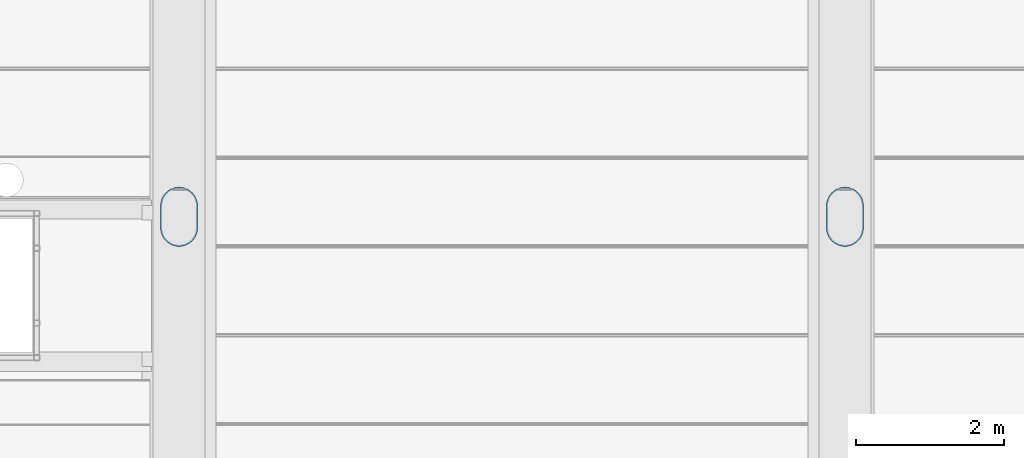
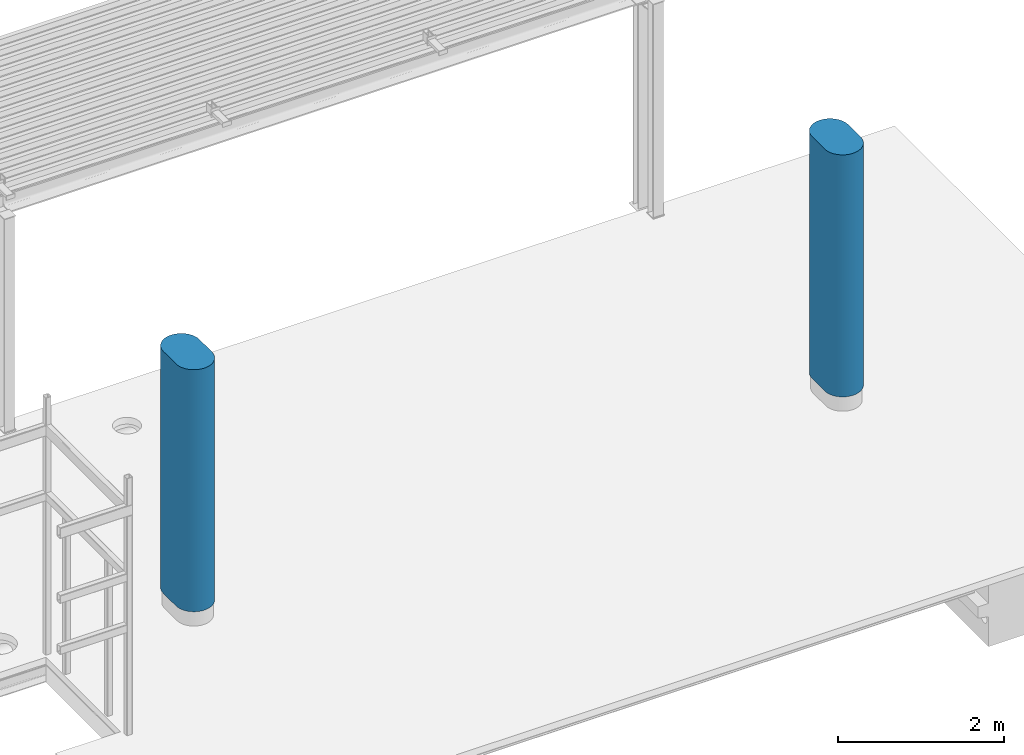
# One storey, part 17 of 34: 2 columns.
"""IFC2X3 building model written with IfcOpenShell, lengths in millimetres."""

from ifc_helpers import new_model, entity, si_unit, converted_unit, derived_unit, direction, frame, origin_with_axes, place, context, subcontext, project, spatial, faceted_brep, type_object, element, save


model = new_model("IFC2X3")

# Units and contexts
model_context = context("Model", 3, precision=0.01, world=frame((0.0, 4.29681676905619e-09, 0.0)), true_north=direction((4.01073788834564e-13, 1.0)))
plan_context = context("Plan", 3, precision=0.01, world=frame((0.0, 4.29681676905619e-09, 0.0)), true_north=direction((4.01073788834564e-13, 1.0)))
body_context = subcontext(model_context, "Body", "Model", "MODEL_VIEW")
ifc_project = project(units=[converted_unit("PLANEANGLEUNIT", "DEGREE", entity("IfcPositiveLengthMeasure", 0.0174532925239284), si_unit("PLANEANGLEUNIT", "RADIAN"), dimensions=[0, 0, 0, 0, 0, 0, 0]), si_unit("AREAUNIT", "SQUARE_METRE"), si_unit("LENGTHUNIT", "METRE", prefix="MILLI"), si_unit("MASSUNIT", "GRAM", prefix="KILO"), si_unit("POWERUNIT", "WATT"), si_unit("PRESSUREUNIT", "PASCAL"), si_unit("FORCEUNIT", "NEWTON", prefix="KILO"), si_unit("ELECTRICVOLTAGEUNIT", "VOLT"), si_unit("ELECTRICCURRENTUNIT", "AMPERE"), si_unit("THERMODYNAMICTEMPERATUREUNIT", "DEGREE_CELSIUS"), si_unit("TIMEUNIT", "SECOND"), si_unit("VOLUMEUNIT", "CUBIC_METRE"), derived_unit("LINEARVELOCITYUNIT", [(si_unit("LENGTHUNIT", "METRE"), 1), (si_unit("TIMEUNIT", "SECOND"), -1)]), derived_unit("VOLUMETRICFLOWRATEUNIT", [(si_unit("VOLUMEUNIT", "CUBIC_METRE"), 1), (si_unit("TIMEUNIT", "SECOND"), -1)]), derived_unit("THERMALTRANSMITTANCEUNIT", [(si_unit("POWERUNIT", "WATT"), 1), (si_unit("THERMODYNAMICTEMPERATUREUNIT", "KELVIN"), -1), (si_unit("AREAUNIT", "SQUARE_METRE"), -1)]), derived_unit("SOUNDPRESSUREUNIT", [(si_unit("PRESSUREUNIT", "PASCAL"), 1)])], contexts=[model_context, plan_context])

# Site, building, storey
site_placement = place(None, frame((0.0, -4.29681676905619e-09, 0.0), z_axis=(0.0, 0.0, 1.0), x_axis=(1.0, 0.0, 0.0)))
site = spatial("IfcSite", under=ifc_project, at=site_placement, Name="Gardermoen", CompositionType="ELEMENT")
building_placement = place(site_placement, frame((0.0, 4.29681676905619e-09, 0.0), z_axis=(0.0, 0.0, 1.0), x_axis=(1.0, 0.0, 0.0)))
building = spatial("IfcBuilding", under=site, at=building_placement, Name="TH", CompositionType="ELEMENT")
storey_placement = place(building_placement, origin_with_axes())
storey = spatial("IfcBuildingStorey", under=building, at=storey_placement, Name="F", CompositionType="ELEMENT", Elevation=0.0)

# Columns
column_type = type_object("IfcColumnType", Name="AAJOVAL500*800", PredefinedType="NOTDEFINED")
column_1_placement = place(storey_placement, frame((897999.999531, 480299.995625, 210350.0), z_axis=(0.0, 0.0, 1.0), x_axis=(0.0, 1.0, 0.0)))
element("IfcColumn", 1, at=column_1_placement, inside=storey, type_object=column_type, Name="PREFABSØYLE", ObjectType="AAJOVAL500*800", context=body_context, shape_type="Brep", body=[
    faceted_brep([(381.972256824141, 93.2141194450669, 2912.37962716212), (389.041683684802, 73.2056928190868, 2907.33003691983), (394.388809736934, 52.6698174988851, 2903.51066145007), (397.975108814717, 31.7544549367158, 2900.9490194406), (399.77474155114, 10.6103007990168, 2899.50266869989), (399.77474155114, -10.6103007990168, 2899.50266869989), (397.975108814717, -31.7544549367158, 2900.9490194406), (394.388809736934, -52.6698174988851, 2903.51066145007), (389.041683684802, -73.2056928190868, 2907.33003691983), (381.972256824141, -93.2141194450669, 2912.37962716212), (378.999999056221, -99.789496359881, 2914.50266826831), (378.999999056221, 99.789496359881, 2914.50266826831), (373.231464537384, -112.550936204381, 2914.50266819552), (362.882284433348, -131.076820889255, 2914.50266806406), (358.999999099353, -136.82084890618, 2914.50266801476), (358.999999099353, 136.82084890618, 2914.50266801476), (362.882284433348, 131.076820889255, 2914.50266806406), (373.231464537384, 112.550936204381, 2914.50266819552), (358.999982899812, -136.820872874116, 3264.50266394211), (358.999982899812, 136.820872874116, 3264.50266394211), (373.231464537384, 112.550936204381, 3264.50265812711), (362.882284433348, 131.076820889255, 3264.50266235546), (362.882284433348, -131.076820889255, 3264.50266235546), (373.231464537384, -112.550936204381, 3264.50265812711), (378.99998152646, -99.789535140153, 3264.50265577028), (378.99998152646, 99.789535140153, 3264.50265577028), (397.975108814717, 31.7544549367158, 3278.05632690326), (394.388809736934, 52.6698174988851, 3275.49468304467), (389.041683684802, 73.2056928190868, 3271.67530481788), (381.972256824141, 93.2141194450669, 3266.6257109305), (381.972256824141, -93.2141194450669, 3266.6257109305), (389.041683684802, -73.2056928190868, 3271.67530481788), (394.388809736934, -52.6698174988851, 3275.49468304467), (397.975108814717, -31.7544549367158, 3278.05632690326), (399.77474155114, -10.6103007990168, 3279.50266921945), (399.999986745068, 10.6103007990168, 3279.50266921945), (-150.0, -250.0, 3550.0), (150.0, -250.0, 3550.0), (150.0, -250.0, 0.0), (-150.0, -250.0, 0.0), (171.201481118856, -249.099372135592, 3550.0), (171.201481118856, -249.099372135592, 0.0), (192.250205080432, -246.403977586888, 3550.0), (192.250205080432, -246.403977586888, 0.0), (212.994515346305, -241.933236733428, 3550.0), (212.994515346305, -241.933236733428, 0.0), (233.284948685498, -235.719361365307, 3550.0), (233.284948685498, -235.719361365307, 0.0), (252.975312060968, -227.807122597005, 3550.0), (252.975312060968, -227.807122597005, 0.0), (271.923735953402, -218.253528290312, 3550.0), (271.923735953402, -218.253528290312, 0.0), (289.993696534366, -207.127412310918, 3550.0), (289.993696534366, -207.127412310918, 0.0), (307.054999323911, -194.508938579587, 3550.0), (307.054999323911, -194.508938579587, 0.0), (322.984717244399, -180.489023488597, 3550.0), (322.984717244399, -180.489023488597, 0.0), (337.668076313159, -165.168680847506, 3550.0), (337.668076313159, -165.168680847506, 0.0), (350.999282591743, -148.6582940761, 3550.0), (350.999282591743, -148.6582940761, 0.0), (362.882284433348, -131.076820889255, 3550.0), (362.882284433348, -131.076820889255, 0.0), (373.231464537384, -112.550936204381, 3550.0), (381.972256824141, -93.2141194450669, 3550.0), (389.041683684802, -73.2056928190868, 3550.0), (394.388809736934, -52.6698174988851, 3550.0), (397.975108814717, -31.7544549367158, 3550.0), (399.77474155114, -10.6103007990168, 3550.0), (399.976339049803, 10.6103007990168, 3550.0), (397.975108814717, 31.7544549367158, 3549.99638716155), (394.388809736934, 52.6698174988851, 3550.0), (389.041683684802, 73.2056928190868, 3550.0), (381.972256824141, 93.2141194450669, 3550.0), (373.231464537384, 112.550936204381, 3550.00000209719), (362.882284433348, 131.076820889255, 3550.00000376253), (350.999282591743, 148.6582940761, 3550.0), (350.999282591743, 148.6582940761, 0.0), (362.882284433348, 131.076820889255, 0.0), (373.231464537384, 112.550936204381, 0.0), (381.972256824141, 93.2141194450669, 0.0), (389.041683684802, 73.2056928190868, 0.0), (394.388809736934, 52.6698174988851, 0.0), (397.975108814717, 31.7544549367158, 0.0), (399.77474155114, 10.6103007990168, 0.0), (399.77474155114, -10.6103007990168, 0.0), (397.975108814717, -31.7544549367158, 0.0), (394.388809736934, -52.6698174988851, 0.0), (389.041683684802, -73.2056928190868, 0.0), (381.972256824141, -93.2141194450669, 0.0), (373.231464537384, -112.550936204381, 0.0), (337.668076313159, 165.168680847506, 3550.0), (337.668076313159, 165.168680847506, 0.0), (322.984717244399, 180.489023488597, 3550.0), (322.984717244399, 180.489023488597, 0.0), (307.054999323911, 194.508938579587, 3550.0), (307.054999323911, 194.508938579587, 0.0), (289.993696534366, 207.127412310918, 3550.0), (289.993696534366, 207.127412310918, 0.0), (271.923735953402, 218.253528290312, 3550.0), (271.923735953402, 218.253528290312, 0.0), (252.975312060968, 227.807122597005, 3550.0), (252.975312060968, 227.807122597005, 0.0), (233.284948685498, 235.719361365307, 3550.0), (233.284948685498, 235.719361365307, 0.0), (212.994515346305, 241.933236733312, 3550.0), (212.994515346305, 241.933236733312, 0.0), (192.250205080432, 246.403977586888, 3550.0), (192.250205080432, 246.403977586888, 0.0), (171.201481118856, 249.099372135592, 3550.0), (171.201481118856, 249.099372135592, 0.0), (150.0, 250.0, 3550.0), (150.0, 250.0, 0.0), (-150.0, 250.0, 3550.0), (-150.0, 250.0, 0.0), (-171.201481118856, 249.099372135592, 3550.0), (-171.201481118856, 249.099372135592, 0.0), (-192.250205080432, 246.403977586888, 3550.0), (-192.250205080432, 246.403977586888, 0.0), (-212.994515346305, 241.933236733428, 3550.0), (-212.994515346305, 241.933236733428, 0.0), (-233.284948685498, 235.719361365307, 3550.0), (-233.284948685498, 235.719361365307, 0.0), (-252.975312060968, 227.807122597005, 3550.0), (-252.975312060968, 227.807122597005, 0.0), (-271.923735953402, 218.253528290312, 3550.0), (-271.923735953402, 218.253528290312, 0.0), (-289.993696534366, 207.127412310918, 3550.0), (-289.993696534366, 207.127412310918, 0.0), (-307.054999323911, 194.508938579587, 3550.0), (-307.054999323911, 194.508938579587, 0.0), (-322.984717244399, 180.489023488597, 3550.0), (-322.984717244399, 180.489023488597, 0.0), (-337.668076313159, 165.168680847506, 3550.0), (-337.668076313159, 165.168680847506, 0.0), (-350.999282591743, 148.6582940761, 3550.0), (-350.999282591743, 148.6582940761, 0.0), (-362.882284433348, 131.076820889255, 3550.0), (-362.882284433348, 131.076820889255, 0.0), (-373.231464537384, 112.550936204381, 3550.0), (-373.231464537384, 112.550936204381, 0.0), (-381.972256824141, 93.2141194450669, 3550.0), (-381.972256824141, 93.2141194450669, 0.0), (-389.041683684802, 73.2056928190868, 3550.0), (-389.041683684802, 73.2056928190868, 0.0), (-394.388809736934, 52.6698174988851, 3550.0), (-394.388809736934, 52.6698174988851, 0.0), (-397.975108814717, 31.7544549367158, 3550.0), (-397.975108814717, 31.7544549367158, 0.0), (-399.77474155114, 10.6103007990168, 3550.0), (-399.77474155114, 10.6103007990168, 0.0), (-399.77474155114, -10.6103007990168, 3550.0), (-399.77474155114, -10.6103007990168, 0.0), (-397.975108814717, -31.7544549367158, 3550.0), (-397.975108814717, -31.7544549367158, 0.0), (-394.388809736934, -52.6698174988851, 3550.0), (-394.388809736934, -52.6698174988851, 0.0), (-389.041683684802, -73.2056928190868, 3550.0), (-389.041683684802, -73.2056928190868, 0.0), (-381.972256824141, -93.2141194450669, 3550.0), (-381.972256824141, -93.2141194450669, 0.0), (-373.231464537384, -112.550936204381, 3550.0), (-373.231464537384, -112.550936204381, 0.0), (-362.882284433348, -131.076820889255, 3550.0), (-362.882284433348, -131.076820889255, 0.0), (-350.999282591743, -148.6582940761, 3550.0), (-350.999282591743, -148.6582940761, 0.0), (-337.668076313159, -165.168680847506, 3550.0), (-337.668076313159, -165.168680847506, 0.0), (-322.984717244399, -180.489023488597, 3550.0), (-322.984717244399, -180.489023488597, 0.0), (-307.054999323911, -194.508938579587, 3550.0), (-307.054999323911, -194.508938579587, 0.0), (-289.993696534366, -207.127412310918, 3550.0), (-289.993696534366, -207.127412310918, 0.0), (-271.923735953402, -218.253528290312, 3550.0), (-271.923735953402, -218.253528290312, 0.0), (-252.975312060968, -227.807122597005, 3550.0), (-252.975312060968, -227.807122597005, 0.0), (-233.284948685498, -235.719361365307, 3550.0), (-233.284948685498, -235.719361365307, 0.0), (-212.994515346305, -241.933236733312, 3550.0), (-212.994515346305, -241.933236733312, 0.0), (-192.250205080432, -246.403977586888, 3550.0), (-192.250205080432, -246.403977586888, 0.0), (-171.201481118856, -249.099372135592, 3550.0), (-171.201481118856, -249.099372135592, 0.0), (362.882284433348, 131.076820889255, 3550.0), (373.231464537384, 112.550936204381, 3550.0), (397.975108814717, 31.7544549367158, 3550.0)], [[[0, 1, 2, 3, 4, 5, 6, 7, 8, 9, 10, 11]], [[11, 10, 12, 13, 14, 15, 16, 17]], [[15, 14, 18, 19]], [[20, 21, 19, 18, 22, 23, 24, 25]], [[26, 27, 28, 29, 25, 24, 30, 31, 32, 33, 34, 35]], [[36, 37, 38, 39]], [[37, 40, 41, 38]], [[40, 42, 43, 41]], [[42, 44, 45, 43]], [[44, 46, 47, 45]], [[46, 48, 49, 47]], [[48, 50, 51, 49]], [[50, 52, 53, 51]], [[52, 54, 55, 53]], [[54, 56, 57, 55]], [[56, 58, 59, 57]], [[58, 60, 61, 59]], [[60, 62, 22, 18, 14, 13, 63, 61]], [[62, 64, 23, 22]], [[64, 65, 30, 24, 23]], [[65, 66, 31, 30]], [[66, 67, 32, 31]], [[67, 68, 33, 32]], [[68, 69, 34, 33]], [[69, 70, 35, 34]], [[70, 71, 26, 35]], [[71, 72, 27, 26]], [[72, 73, 28, 27]], [[73, 74, 29, 28]], [[74, 75, 20, 25, 29]], [[75, 76, 21, 20]], [[76, 77, 78, 79, 16, 15, 19, 21]], [[17, 16, 79, 80]], [[0, 11, 17, 80, 81]], [[1, 0, 81, 82]], [[2, 1, 82, 83]], [[3, 2, 83, 84]], [[4, 3, 84, 85]], [[5, 4, 85, 86]], [[6, 5, 86, 87]], [[7, 6, 87, 88]], [[8, 7, 88, 89]], [[9, 8, 89, 90]], [[12, 10, 9, 90, 91]], [[77, 92, 93, 78]], [[92, 94, 95, 93]], [[94, 96, 97, 95]], [[96, 98, 99, 97]], [[98, 100, 101, 99]], [[100, 102, 103, 101]], [[102, 104, 105, 103]], [[104, 106, 107, 105]], [[106, 108, 109, 107]], [[108, 110, 111, 109]], [[110, 112, 113, 111]], [[112, 114, 115, 113]], [[114, 116, 117, 115]], [[116, 118, 119, 117]], [[118, 120, 121, 119]], [[120, 122, 123, 121]], [[122, 124, 125, 123]], [[124, 126, 127, 125]], [[126, 128, 129, 127]], [[128, 130, 131, 129]], [[130, 132, 133, 131]], [[132, 134, 135, 133]], [[134, 136, 137, 135]], [[136, 138, 139, 137]], [[138, 140, 141, 139]], [[140, 142, 143, 141]], [[142, 144, 145, 143]], [[144, 146, 147, 145]], [[146, 148, 149, 147]], [[148, 150, 151, 149]], [[150, 152, 153, 151]], [[152, 154, 155, 153]], [[154, 156, 157, 155]], [[156, 158, 159, 157]], [[158, 160, 161, 159]], [[160, 162, 163, 161]], [[162, 164, 165, 163]], [[164, 166, 167, 165]], [[166, 168, 169, 167]], [[168, 170, 171, 169]], [[170, 172, 173, 171]], [[172, 174, 175, 173]], [[174, 176, 177, 175]], [[176, 178, 179, 177]], [[178, 180, 181, 179]], [[180, 182, 183, 181]], [[182, 184, 185, 183]], [[184, 186, 187, 185]], [[13, 12, 91, 63]], [[186, 36, 39, 187]], [[38, 41, 43, 45, 47, 49, 51, 53, 55, 57, 59, 61, 63, 91, 90, 89, 88, 87, 86, 85, 84, 83, 82, 81, 80, 79, 78, 93, 95, 97, 99, 101, 103, 105, 107, 109, 111, 113, 115, 117, 119, 121, 123, 125, 127, 129, 131, 133, 135, 137, 139, 141, 143, 145, 147, 149, 151, 153, 155, 157, 159, 161, 163, 165, 167, 169, 171, 173, 175, 177, 179, 181, 183, 185, 187, 39]], [[186, 184, 182, 180, 178, 176, 174, 172, 170, 168, 166, 164, 162, 160, 158, 156, 154, 152, 150, 148, 146, 144, 142, 140, 138, 136, 134, 132, 130, 128, 126, 124, 122, 120, 118, 116, 114, 112, 110, 108, 106, 104, 102, 100, 98, 96, 94, 92, 77, 188, 189, 74, 73, 72, 190, 70, 69, 68, 67, 66, 65, 64, 62, 60, 58, 56, 54, 52, 50, 48, 46, 44, 42, 40, 37, 36]]], orient=[[False], [False], [False], [False], [False], [False], [False], [False], [False], [False], [False], [False], [False], [False], [False], [False], [False], [False], [False], [False], [False], [False], [False], [False], [False], [False], [False], [False], [False], [False], [False], [False], [False], [False], [False], [False], [False], [False], [False], [False], [False], [False], [False], [False], [False], [False], [False], [False], [False], [False], [False], [False], [False], [False], [False], [False], [False], [False], [False], [False], [False], [False], [False], [False], [False], [False], [False], [False], [False], [False], [False], [False], [False], [False], [False], [False], [False], [False], [False], [False], [False], [False], [False], [False], [False], [False], [False], [False], [False], [False], [False], [False], [False], [False], [False], [False]]),
])
column_2_placement = place(storey_placement, frame((906999.999531, 480299.995625, 210350.0), z_axis=(0.0, 0.0, 1.0), x_axis=(0.0, 1.0, 0.0)))
element("IfcColumn", 2, at=column_2_placement, inside=storey, type_object=column_type, Name="PREFABSØYLE", ObjectType="AAJOVAL500*800", context=body_context, shape_type="Brep", body=[
    faceted_brep([(381.972256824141, 93.2141194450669, 2912.37962716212), (389.041683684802, 73.2056928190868, 2907.33003691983), (394.388809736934, 52.6698174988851, 2903.51066145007), (397.975108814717, 31.7544549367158, 2900.9490194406), (399.77474155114, 10.6103007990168, 2899.50266869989), (399.77474155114, -10.6103007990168, 2899.50266869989), (397.975108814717, -31.7544549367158, 2900.9490194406), (394.388809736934, -52.6698174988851, 2903.51066145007), (389.041683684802, -73.2056928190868, 2907.33003691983), (381.972256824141, -93.2141194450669, 2912.37962716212), (378.999999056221, -99.789496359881, 2914.50266826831), (378.999999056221, 99.789496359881, 2914.50266826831), (373.231464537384, -112.550936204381, 2914.50266819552), (362.882284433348, -131.076820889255, 2914.50266806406), (358.999999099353, -136.82084890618, 2914.50266801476), (358.999999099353, 136.82084890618, 2914.50266801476), (362.882284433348, 131.076820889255, 2914.50266806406), (373.231464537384, 112.550936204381, 2914.50266819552), (358.999982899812, -136.820872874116, 3264.50266394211), (358.999982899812, 136.820872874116, 3264.50266394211), (373.231464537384, 112.550936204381, 3264.50265812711), (362.882284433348, 131.076820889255, 3264.50266235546), (362.882284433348, -131.076820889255, 3264.50266235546), (373.231464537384, -112.550936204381, 3264.50265812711), (378.99998152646, -99.789535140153, 3264.50265577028), (378.99998152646, 99.789535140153, 3264.50265577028), (397.975108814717, 31.7544549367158, 3278.05632690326), (394.388809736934, 52.6698174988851, 3275.49468304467), (389.041683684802, 73.2056928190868, 3271.67530481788), (381.972256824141, 93.2141194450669, 3266.6257109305), (381.972256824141, -93.2141194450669, 3266.6257109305), (389.041683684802, -73.2056928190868, 3271.67530481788), (394.388809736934, -52.6698174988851, 3275.49468304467), (397.975108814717, -31.7544549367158, 3278.05632690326), (399.77474155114, -10.6103007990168, 3279.50266921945), (399.999986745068, 10.6103007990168, 3279.50266921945), (-150.0, -250.0, 3550.0), (150.0, -250.0, 3550.0), (150.0, -250.0, 0.0), (-150.0, -250.0, 0.0), (171.201481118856, -249.099372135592, 3550.0), (171.201481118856, -249.099372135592, 0.0), (192.250205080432, -246.403977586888, 3550.0), (192.250205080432, -246.403977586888, 0.0), (212.994515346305, -241.933236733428, 3550.0), (212.994515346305, -241.933236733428, 0.0), (233.284948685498, -235.719361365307, 3550.0), (233.284948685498, -235.719361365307, 0.0), (252.975312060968, -227.807122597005, 3550.0), (252.975312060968, -227.807122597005, 0.0), (271.923735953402, -218.253528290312, 3550.0), (271.923735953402, -218.253528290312, 0.0), (289.993696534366, -207.127412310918, 3550.0), (289.993696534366, -207.127412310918, 0.0), (307.054999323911, -194.508938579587, 3550.0), (307.054999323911, -194.508938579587, 0.0), (322.984717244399, -180.489023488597, 3550.0), (322.984717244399, -180.489023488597, 0.0), (337.668076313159, -165.168680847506, 3550.0), (337.668076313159, -165.168680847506, 0.0), (350.999282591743, -148.6582940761, 3550.0), (350.999282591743, -148.6582940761, 0.0), (362.882284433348, -131.076820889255, 3550.0), (362.882284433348, -131.076820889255, 0.0), (373.231464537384, -112.550936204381, 3550.0), (381.972256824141, -93.2141194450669, 3550.0), (389.041683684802, -73.2056928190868, 3550.0), (394.388809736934, -52.6698174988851, 3550.0), (397.975108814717, -31.7544549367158, 3550.0), (399.77474155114, -10.6103007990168, 3550.0), (399.976339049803, 10.6103007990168, 3550.0), (397.975108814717, 31.7544549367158, 3549.99638716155), (394.388809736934, 52.6698174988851, 3550.0), (389.041683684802, 73.2056928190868, 3550.0), (381.972256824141, 93.2141194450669, 3550.0), (373.231464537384, 112.550936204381, 3550.00000209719), (362.882284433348, 131.076820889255, 3550.00000376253), (350.999282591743, 148.6582940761, 3550.0), (350.999282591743, 148.6582940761, 0.0), (362.882284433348, 131.076820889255, 0.0), (373.231464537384, 112.550936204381, 0.0), (381.972256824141, 93.2141194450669, 0.0), (389.041683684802, 73.2056928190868, 0.0), (394.388809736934, 52.6698174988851, 0.0), (397.975108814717, 31.7544549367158, 0.0), (399.77474155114, 10.6103007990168, 0.0), (399.77474155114, -10.6103007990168, 0.0), (397.975108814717, -31.7544549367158, 0.0), (394.388809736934, -52.6698174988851, 0.0), (389.041683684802, -73.2056928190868, 0.0), (381.972256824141, -93.2141194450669, 0.0), (373.231464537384, -112.550936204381, 0.0), (337.668076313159, 165.168680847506, 3550.0), (337.668076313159, 165.168680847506, 0.0), (322.984717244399, 180.489023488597, 3550.0), (322.984717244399, 180.489023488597, 0.0), (307.054999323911, 194.508938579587, 3550.0), (307.054999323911, 194.508938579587, 0.0), (289.993696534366, 207.127412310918, 3550.0), (289.993696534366, 207.127412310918, 0.0), (271.923735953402, 218.253528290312, 3550.0), (271.923735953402, 218.253528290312, 0.0), (252.975312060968, 227.807122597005, 3550.0), (252.975312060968, 227.807122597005, 0.0), (233.284948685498, 235.719361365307, 3550.0), (233.284948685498, 235.719361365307, 0.0), (212.994515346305, 241.933236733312, 3550.0), (212.994515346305, 241.933236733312, 0.0), (192.250205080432, 246.403977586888, 3550.0), (192.250205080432, 246.403977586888, 0.0), (171.201481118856, 249.099372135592, 3550.0), (171.201481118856, 249.099372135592, 0.0), (150.0, 250.0, 3550.0), (150.0, 250.0, 0.0), (-150.0, 250.0, 3550.0), (-150.0, 250.0, 0.0), (-171.201481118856, 249.099372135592, 3550.0), (-171.201481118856, 249.099372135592, 0.0), (-192.250205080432, 246.403977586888, 3550.0), (-192.250205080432, 246.403977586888, 0.0), (-212.994515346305, 241.933236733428, 3550.0), (-212.994515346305, 241.933236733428, 0.0), (-233.284948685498, 235.719361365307, 3550.0), (-233.284948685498, 235.719361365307, 0.0), (-252.975312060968, 227.807122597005, 3550.0), (-252.975312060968, 227.807122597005, 0.0), (-271.923735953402, 218.253528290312, 3550.0), (-271.923735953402, 218.253528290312, 0.0), (-289.993696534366, 207.127412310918, 3550.0), (-289.993696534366, 207.127412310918, 0.0), (-307.054999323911, 194.508938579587, 3550.0), (-307.054999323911, 194.508938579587, 0.0), (-322.984717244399, 180.489023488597, 3550.0), (-322.984717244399, 180.489023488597, 0.0), (-337.668076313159, 165.168680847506, 3550.0), (-337.668076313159, 165.168680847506, 0.0), (-350.999282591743, 148.6582940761, 3550.0), (-350.999282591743, 148.6582940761, 0.0), (-362.882284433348, 131.076820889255, 3550.0), (-362.882284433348, 131.076820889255, 0.0), (-373.231464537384, 112.550936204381, 3550.0), (-373.231464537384, 112.550936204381, 0.0), (-381.972256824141, 93.2141194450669, 3550.0), (-381.972256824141, 93.2141194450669, 0.0), (-389.041683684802, 73.2056928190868, 3550.0), (-389.041683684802, 73.2056928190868, 0.0), (-394.388809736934, 52.6698174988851, 3550.0), (-394.388809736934, 52.6698174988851, 0.0), (-397.975108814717, 31.7544549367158, 3550.0), (-397.975108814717, 31.7544549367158, 0.0), (-399.77474155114, 10.6103007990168, 3550.0), (-399.77474155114, 10.6103007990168, 0.0), (-399.77474155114, -10.6103007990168, 3550.0), (-399.77474155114, -10.6103007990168, 0.0), (-397.975108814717, -31.7544549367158, 3550.0), (-397.975108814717, -31.7544549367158, 0.0), (-394.388809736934, -52.6698174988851, 3550.0), (-394.388809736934, -52.6698174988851, 0.0), (-389.041683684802, -73.2056928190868, 3550.0), (-389.041683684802, -73.2056928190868, 0.0), (-381.972256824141, -93.2141194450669, 3550.0), (-381.972256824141, -93.2141194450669, 0.0), (-373.231464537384, -112.550936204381, 3550.0), (-373.231464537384, -112.550936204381, 0.0), (-362.882284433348, -131.076820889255, 3550.0), (-362.882284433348, -131.076820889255, 0.0), (-350.999282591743, -148.6582940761, 3550.0), (-350.999282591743, -148.6582940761, 0.0), (-337.668076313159, -165.168680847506, 3550.0), (-337.668076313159, -165.168680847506, 0.0), (-322.984717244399, -180.489023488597, 3550.0), (-322.984717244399, -180.489023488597, 0.0), (-307.054999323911, -194.508938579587, 3550.0), (-307.054999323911, -194.508938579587, 0.0), (-289.993696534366, -207.127412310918, 3550.0), (-289.993696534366, -207.127412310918, 0.0), (-271.923735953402, -218.253528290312, 3550.0), (-271.923735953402, -218.253528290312, 0.0), (-252.975312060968, -227.807122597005, 3550.0), (-252.975312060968, -227.807122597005, 0.0), (-233.284948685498, -235.719361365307, 3550.0), (-233.284948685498, -235.719361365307, 0.0), (-212.994515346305, -241.933236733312, 3550.0), (-212.994515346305, -241.933236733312, 0.0), (-192.250205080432, -246.403977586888, 3550.0), (-192.250205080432, -246.403977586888, 0.0), (-171.201481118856, -249.099372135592, 3550.0), (-171.201481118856, -249.099372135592, 0.0), (362.882284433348, 131.076820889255, 3550.0), (373.231464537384, 112.550936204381, 3550.0), (397.975108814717, 31.7544549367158, 3550.0)], [[[0, 1, 2, 3, 4, 5, 6, 7, 8, 9, 10, 11]], [[11, 10, 12, 13, 14, 15, 16, 17]], [[15, 14, 18, 19]], [[20, 21, 19, 18, 22, 23, 24, 25]], [[26, 27, 28, 29, 25, 24, 30, 31, 32, 33, 34, 35]], [[36, 37, 38, 39]], [[37, 40, 41, 38]], [[40, 42, 43, 41]], [[42, 44, 45, 43]], [[44, 46, 47, 45]], [[46, 48, 49, 47]], [[48, 50, 51, 49]], [[50, 52, 53, 51]], [[52, 54, 55, 53]], [[54, 56, 57, 55]], [[56, 58, 59, 57]], [[58, 60, 61, 59]], [[60, 62, 22, 18, 14, 13, 63, 61]], [[62, 64, 23, 22]], [[64, 65, 30, 24, 23]], [[65, 66, 31, 30]], [[66, 67, 32, 31]], [[67, 68, 33, 32]], [[68, 69, 34, 33]], [[69, 70, 35, 34]], [[70, 71, 26, 35]], [[71, 72, 27, 26]], [[72, 73, 28, 27]], [[73, 74, 29, 28]], [[74, 75, 20, 25, 29]], [[75, 76, 21, 20]], [[76, 77, 78, 79, 16, 15, 19, 21]], [[17, 16, 79, 80]], [[0, 11, 17, 80, 81]], [[1, 0, 81, 82]], [[2, 1, 82, 83]], [[3, 2, 83, 84]], [[4, 3, 84, 85]], [[5, 4, 85, 86]], [[6, 5, 86, 87]], [[7, 6, 87, 88]], [[8, 7, 88, 89]], [[9, 8, 89, 90]], [[12, 10, 9, 90, 91]], [[77, 92, 93, 78]], [[92, 94, 95, 93]], [[94, 96, 97, 95]], [[96, 98, 99, 97]], [[98, 100, 101, 99]], [[100, 102, 103, 101]], [[102, 104, 105, 103]], [[104, 106, 107, 105]], [[106, 108, 109, 107]], [[108, 110, 111, 109]], [[110, 112, 113, 111]], [[112, 114, 115, 113]], [[114, 116, 117, 115]], [[116, 118, 119, 117]], [[118, 120, 121, 119]], [[120, 122, 123, 121]], [[122, 124, 125, 123]], [[124, 126, 127, 125]], [[126, 128, 129, 127]], [[128, 130, 131, 129]], [[130, 132, 133, 131]], [[132, 134, 135, 133]], [[134, 136, 137, 135]], [[136, 138, 139, 137]], [[138, 140, 141, 139]], [[140, 142, 143, 141]], [[142, 144, 145, 143]], [[144, 146, 147, 145]], [[146, 148, 149, 147]], [[148, 150, 151, 149]], [[150, 152, 153, 151]], [[152, 154, 155, 153]], [[154, 156, 157, 155]], [[156, 158, 159, 157]], [[158, 160, 161, 159]], [[160, 162, 163, 161]], [[162, 164, 165, 163]], [[164, 166, 167, 165]], [[166, 168, 169, 167]], [[168, 170, 171, 169]], [[170, 172, 173, 171]], [[172, 174, 175, 173]], [[174, 176, 177, 175]], [[176, 178, 179, 177]], [[178, 180, 181, 179]], [[180, 182, 183, 181]], [[182, 184, 185, 183]], [[184, 186, 187, 185]], [[13, 12, 91, 63]], [[186, 36, 39, 187]], [[38, 41, 43, 45, 47, 49, 51, 53, 55, 57, 59, 61, 63, 91, 90, 89, 88, 87, 86, 85, 84, 83, 82, 81, 80, 79, 78, 93, 95, 97, 99, 101, 103, 105, 107, 109, 111, 113, 115, 117, 119, 121, 123, 125, 127, 129, 131, 133, 135, 137, 139, 141, 143, 145, 147, 149, 151, 153, 155, 157, 159, 161, 163, 165, 167, 169, 171, 173, 175, 177, 179, 181, 183, 185, 187, 39]], [[186, 184, 182, 180, 178, 176, 174, 172, 170, 168, 166, 164, 162, 160, 158, 156, 154, 152, 150, 148, 146, 144, 142, 140, 138, 136, 134, 132, 130, 128, 126, 124, 122, 120, 118, 116, 114, 112, 110, 108, 106, 104, 102, 100, 98, 96, 94, 92, 77, 188, 189, 74, 73, 72, 190, 70, 69, 68, 67, 66, 65, 64, 62, 60, 58, 56, 54, 52, 50, 48, 46, 44, 42, 40, 37, 36]]], orient=[[False], [False], [False], [False], [False], [False], [False], [False], [False], [False], [False], [False], [False], [False], [False], [False], [False], [False], [False], [False], [False], [False], [False], [False], [False], [False], [False], [False], [False], [False], [False], [False], [False], [False], [False], [False], [False], [False], [False], [False], [False], [False], [False], [False], [False], [False], [False], [False], [False], [False], [False], [False], [False], [False], [False], [False], [False], [False], [False], [False], [False], [False], [False], [False], [False], [False], [False], [False], [False], [False], [False], [False], [False], [False], [False], [False], [False], [False], [False], [False], [False], [False], [False], [False], [False], [False], [False], [False], [False], [False], [False], [False], [False], [False], [False], [False]]),
])

save(model, "model.ifc")
